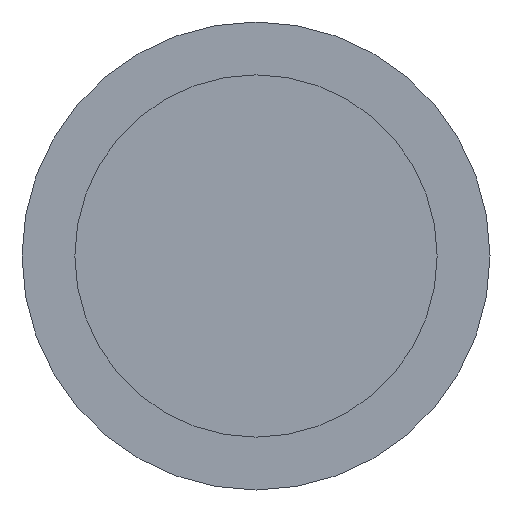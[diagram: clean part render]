
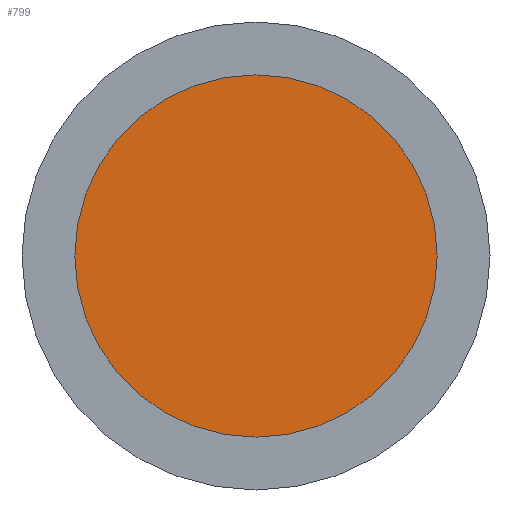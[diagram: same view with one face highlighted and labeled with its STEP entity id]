
A CAD part, front view. The second image highlights one B-rep face of the part: STEP entity #799.
In plain terms, the highlighted planar face has unit normal (0, -1, 0).
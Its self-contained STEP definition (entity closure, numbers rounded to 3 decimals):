
#95=CIRCLE('',#909,2.4);
#273=ORIENTED_EDGE('',*,*,#453,.F.);
#453=EDGE_CURVE('',#545,#545,#95,.T.);
#545=VERTEX_POINT('',#1370);
#675=EDGE_LOOP('',(#273));
#733=FACE_BOUND('',#675,.T.);
#769=PLANE('',#910);
#799=ADVANCED_FACE('',(#733),#769,.F.);
#909=AXIS2_PLACEMENT_3D('',#1369,#1129,#1130);
#910=AXIS2_PLACEMENT_3D('',#1371,#1131,#1132);
#1129=DIRECTION('',(0.,1.,0.));
#1130=DIRECTION('',(1.,0.,0.));
#1131=DIRECTION('',(0.,1.,0.));
#1132=DIRECTION('',(0.,0.,1.));
#1369=CARTESIAN_POINT('',(0.,0.2,0.));
#1370=CARTESIAN_POINT('',(2.4,0.2,0.));
#1371=CARTESIAN_POINT('',(0.,0.2,0.));
